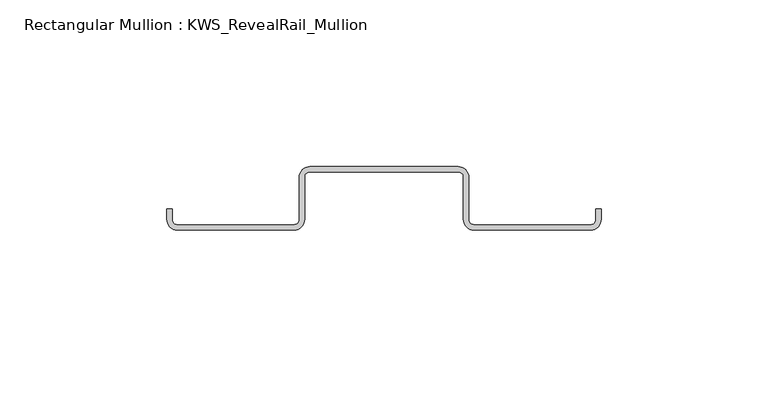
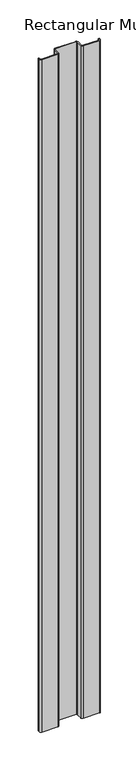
"""IFC4 building model written with IfcOpenShell, lengths in millimetres: member geometry, Rectangular Mullion : KWS_RevealRail_Mullion."""

from ifc_helpers import new_model, si_unit, point, frame, frame_2d, origin, place, context, project, spatial, polyline, circle_curve, trimmed, segment, composite_curve, outline, extrude, source, transform, mapped, element, save


def rectangular_mullion_kws_revealrail_mullion_586ad92f(model_context):
    return source(origin(), model_context, "Body", "SweptSolid", [
        extrude(outline(composite_curve([segment(polyline([(-65.0875, 3.175), (-65.0875, 6.35), (-63.5, 6.35), (-63.5, 3.175)]), True, "CONTINUOUS"), segment(trimmed(circle_curve(frame_2d((-61.9125, 3.175)), 1.5875), [point((-63.5, 3.175))], [point((-61.9125, 1.5875))], True, "CARTESIAN"), True, "CONTINUOUS"), segment(polyline([(-61.9125, 1.5875), (-26.9875, 1.5875)]), True, "CONTINUOUS"), segment(trimmed(circle_curve(frame_2d((-26.9875, 3.175)), 1.5875), [point((-26.9875, 1.5875))], [point((-25.4, 3.175))], True, "CARTESIAN"), True, "CONTINUOUS"), segment(polyline([(-25.4, 3.175), (-25.4, 15.875)]), True, "CONTINUOUS"), segment(trimmed(circle_curve(frame_2d((-22.225, 15.875)), 3.175), [point((-25.4, 15.875))], [point((-22.225, 19.05))], False, "CARTESIAN"), True, "CONTINUOUS"), segment(polyline([(-22.225, 19.05), (22.225, 19.05)]), True, "CONTINUOUS"), segment(trimmed(circle_curve(frame_2d((22.225, 15.875)), 3.175), [point((22.225, 19.05))], [point((25.4, 15.875))], False, "CARTESIAN"), True, "CONTINUOUS"), segment(polyline([(25.4, 15.875), (25.4, 3.175)]), True, "CONTINUOUS"), segment(trimmed(circle_curve(frame_2d((26.9875, 3.175)), 1.5875), [point((25.4, 3.175))], [point((26.9875, 1.5875))], True, "CARTESIAN"), True, "CONTINUOUS"), segment(polyline([(26.9875, 1.5875), (61.9125, 1.5875)]), True, "CONTINUOUS"), segment(trimmed(circle_curve(frame_2d((61.9125, 3.175)), 1.5875), [point((61.9125, 1.5875))], [point((63.5, 3.175))], True, "CARTESIAN"), True, "CONTINUOUS"), segment(polyline([(63.5, 3.175), (63.5, 6.35), (65.0875, 6.35), (65.0875, 3.175)]), True, "CONTINUOUS"), segment(trimmed(circle_curve(frame_2d((61.9125, 3.175)), 3.175), [point((65.0875, 3.175))], [point((61.9125, 0.0))], False, "CARTESIAN"), True, "CONTINUOUS"), segment(polyline([(61.9125, 0.0), (26.9875, 0.0)]), True, "CONTINUOUS"), segment(trimmed(circle_curve(frame_2d((26.9875, 3.175)), 3.175), [point((26.9875, 0.0))], [point((23.8125, 3.175))], False, "CARTESIAN"), True, "CONTINUOUS"), segment(polyline([(23.8125, 3.175), (23.8125, 15.875)]), True, "CONTINUOUS"), segment(trimmed(circle_curve(frame_2d((22.225, 15.875)), 1.5875), [point((23.8125, 15.875))], [point((22.225, 17.4625))], True, "CARTESIAN"), True, "CONTINUOUS"), segment(polyline([(22.225, 17.4625), (-22.225, 17.4625)]), True, "CONTINUOUS"), segment(trimmed(circle_curve(frame_2d((-22.225, 15.875)), 1.5875), [point((-22.225, 17.4625))], [point((-23.8125, 15.875))], True, "CARTESIAN"), True, "CONTINUOUS"), segment(polyline([(-23.8125, 15.875), (-23.8125, 3.175)]), True, "CONTINUOUS"), segment(trimmed(circle_curve(frame_2d((-26.9875, 3.175)), 3.175), [point((-23.8125, 3.175))], [point((-26.9875, 0.0))], False, "CARTESIAN"), True, "CONTINUOUS"), segment(polyline([(-26.9875, 0.0), (-61.9125, 0.0)]), True, "CONTINUOUS"), segment(trimmed(circle_curve(frame_2d((-61.9125, 3.175)), 3.175), [point((-61.9125, 0.0))], [point((-65.0875, 3.175))], False, "CARTESIAN"), True, "CONTINUOUS")], self_intersect=False)), frame((0.0, 0.0, -1523.9999997), z_axis=(0.0, 0.0, 1.0), x_axis=(1.0, 0.0, 0.0)), (0.0, 0.0, 1.0), 1523.9999997),
    ])


if __name__ == "__main__":
    model = new_model("IFC4")
    model_context = context("Model", 3, world=origin())
    ifc_project = project(units=[si_unit("LENGTHUNIT", "METRE", prefix="MILLI")], contexts=[model_context])
    site = spatial("IfcSite", under=ifc_project)
    building = spatial("IfcBuilding", under=site)
    placement = place(None, origin())
    rectangular_mullion_kws_revealrail_mullion_shape = rectangular_mullion_kws_revealrail_mullion_586ad92f(model_context)
    element("IfcMember", 1, ObjectType="Rectangular Mullion : KWS_RevealRail_Mullion", at=placement, inside=building, context=model_context, shape_type="MappedRepresentation", body=[
        mapped(rectangular_mullion_kws_revealrail_mullion_shape, transform((0.0, 0.0, 0.0), x_axis=(1.0, 0.0, 0.0), y_axis=(0.0, 1.0, 0.0), z_axis=(0.0, 0.0, 1.0))),
    ])
    save(model, "model.ifc")
